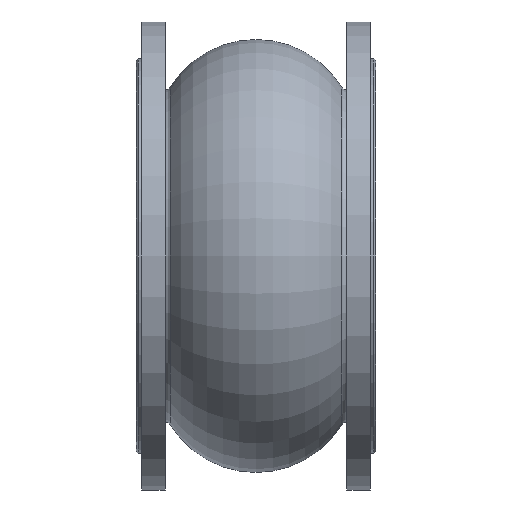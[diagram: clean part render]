
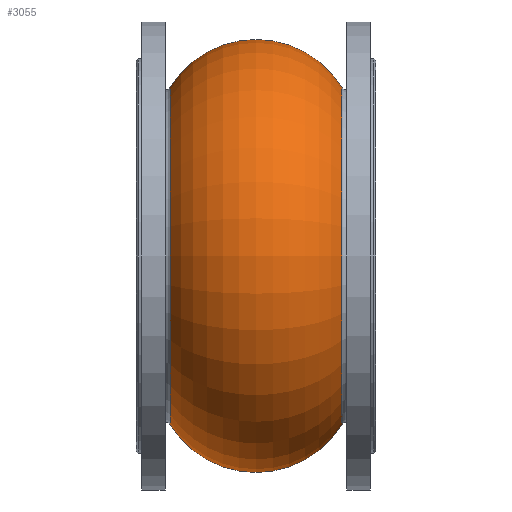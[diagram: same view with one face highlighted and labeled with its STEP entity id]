
A CAD part, front view. The second image highlights one B-rep face of the part: STEP entity #3055.
In plain terms, the highlighted toroidal (fillet/blend) face has major radius 128.497 mm and minor radius 112.006 mm.
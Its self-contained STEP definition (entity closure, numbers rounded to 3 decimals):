
#356 = CIRCLE ( 'NONE', #390, 187.826 ) ;
#372 = DIRECTION ( 'NONE',  ( 0., 0., 1. ) ) ;
#373 = DIRECTION ( 'NONE',  ( -1., 0., 0. ) ) ;
#374 = CARTESIAN_POINT ( 'NONE',  ( 95.002, 0., 0. ) ) ;
#390 = AXIS2_PLACEMENT_3D ( 'NONE', #374, #373, #372 ) ;
#421 = CARTESIAN_POINT ( 'NONE',  ( 95.002, 0., 187.826 ) ) ;
#422 = CARTESIAN_POINT ( 'NONE',  ( 95.002, 0., -187.826 ) ) ;
#442 = CIRCLE ( 'NONE', #563, 112.006 ) ;
#450 = CARTESIAN_POINT ( 'NONE',  ( -95.002, 0., 187.826 ) ) ;
#560 = DIRECTION ( 'NONE',  ( 0., 0., -1. ) ) ;
#561 = DIRECTION ( 'NONE',  ( 0., -1., 0. ) ) ;
#562 = CARTESIAN_POINT ( 'NONE',  ( 0., 0., 128.497 ) ) ;
#563 = AXIS2_PLACEMENT_3D ( 'NONE', #562, #561, #560 ) ;
#566 = DIRECTION ( 'NONE',  ( 0., 0., 1. ) ) ;
#567 = DIRECTION ( 'NONE',  ( 0., 1., 0. ) ) ;
#568 = CARTESIAN_POINT ( 'NONE',  ( 0., 0., -128.497 ) ) ;
#569 = AXIS2_PLACEMENT_3D ( 'NONE', #568, #567, #566 ) ;
#570 = CIRCLE ( 'NONE', #569, 112.006 ) ;
#688 = CARTESIAN_POINT ( 'NONE',  ( -95.002, 0., -187.826 ) ) ;
#1121 = DIRECTION ( 'NONE',  ( 0., 0., 1. ) ) ;
#1122 = DIRECTION ( 'NONE',  ( -1., 0., 0. ) ) ;
#1123 = CARTESIAN_POINT ( 'NONE',  ( -95.002, 0., 0. ) ) ;
#1124 = CIRCLE ( 'NONE', #1206, 187.826 ) ;
#1206 = AXIS2_PLACEMENT_3D ( 'NONE', #1123, #1122, #1121 ) ;
#1341 = TOROIDAL_SURFACE ( 'NONE', #1342, 128.497, 112.006 ) ;
#1342 = AXIS2_PLACEMENT_3D ( 'NONE', #1353, #1456, #1455 ) ;
#1343 = FACE_OUTER_BOUND ( 'NONE', #3262, .T. ) ;
#1353 = CARTESIAN_POINT ( 'NONE',  ( 0., 0., 0. ) ) ;
#1455 = DIRECTION ( 'NONE',  ( 0., 0., 1. ) ) ;
#1456 = DIRECTION ( 'NONE',  ( -1., 0., 0. ) ) ;
#1943 = ORIENTED_EDGE ( 'NONE', *, *, #2318, .T. ) ;
#2318 = EDGE_CURVE ( 'NONE', #2398, #2399, #356, .T. ) ;
#2398 = VERTEX_POINT ( 'NONE', #422 ) ;
#2399 = VERTEX_POINT ( 'NONE', #421 ) ;
#2467 = VERTEX_POINT ( 'NONE', #450 ) ;
#2469 = EDGE_CURVE ( 'NONE', #2398, #2531, #570, .T. ) ;
#2470 = EDGE_CURVE ( 'NONE', #2399, #2467, #442, .T. ) ;
#2531 = VERTEX_POINT ( 'NONE', #688 ) ;
#2867 = EDGE_CURVE ( 'NONE', #2531, #2467, #1124, .T. ) ;
#3055 = ADVANCED_FACE ( 'NONE', ( #1343 ), #1341, .T. ) ;
#3057 = ORIENTED_EDGE ( 'NONE', *, *, #2469, .F. ) ;
#3262 = EDGE_LOOP ( 'NONE', ( #3057, #1943, #3271, #3264 ) ) ;
#3264 = ORIENTED_EDGE ( 'NONE', *, *, #2867, .F. ) ;
#3271 = ORIENTED_EDGE ( 'NONE', *, *, #2470, .T. ) ;
